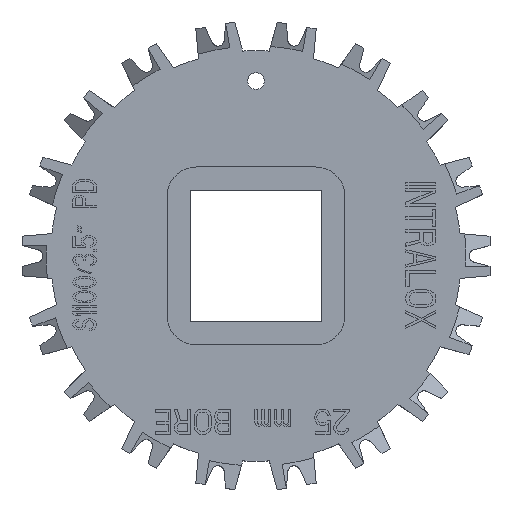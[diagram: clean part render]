
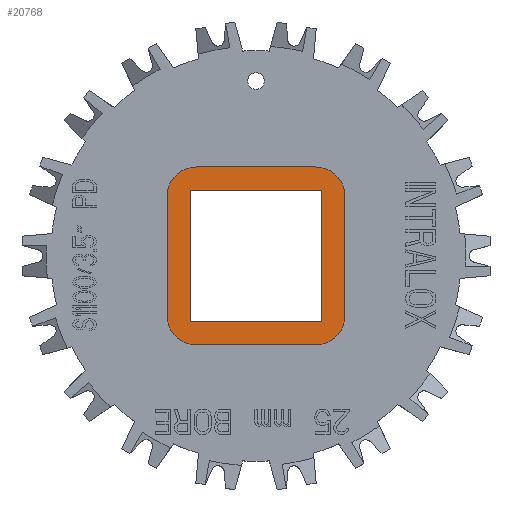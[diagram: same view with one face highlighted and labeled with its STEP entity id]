
A CAD part, top view. The second image highlights one B-rep face of the part: STEP entity #20768.
In plain terms, the highlighted planar face has unit normal (0, 0, 1).
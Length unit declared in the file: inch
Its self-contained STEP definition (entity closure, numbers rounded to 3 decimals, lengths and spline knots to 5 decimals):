
#6035=CARTESIAN_POINT('',(0.4475,0.4475,0.367));
#6036=DIRECTION('',(0.,0.,1.));
#6037=DIRECTION('',(1.,0.,0.));
#6038=AXIS2_PLACEMENT_3D('',#6035,#6036,#6037);
#6040=DIRECTION('',(0.,-1.,0.));
#6041=VECTOR('',#6040,0.895);
#6042=CARTESIAN_POINT('',(0.6675,0.4475,0.367));
#6043=LINE('',#6042,#6041);
#6044=CARTESIAN_POINT('',(0.4475,-0.4475,0.367));
#6045=DIRECTION('',(0.,0.,1.));
#6046=DIRECTION('',(0.,-1.,0.));
#6047=AXIS2_PLACEMENT_3D('',#6044,#6045,#6046);
#6049=DIRECTION('',(-1.,0.,0.));
#6050=VECTOR('',#6049,0.895);
#6051=CARTESIAN_POINT('',(0.4475,-0.6675,0.367));
#6052=LINE('',#6051,#6050);
#6053=CARTESIAN_POINT('',(-0.4475,-0.4475,0.367));
#6054=DIRECTION('',(0.,0.,1.));
#6055=DIRECTION('',(-1.,0.,0.));
#6056=AXIS2_PLACEMENT_3D('',#6053,#6054,#6055);
#6058=DIRECTION('',(0.,1.,0.));
#6059=VECTOR('',#6058,0.895);
#6060=CARTESIAN_POINT('',(-0.6675,-0.4475,0.367));
#6061=LINE('',#6060,#6059);
#6062=CARTESIAN_POINT('',(-0.4475,0.4475,0.367));
#6063=DIRECTION('',(0.,0.,1.));
#6064=DIRECTION('',(0.,1.,0.));
#6065=AXIS2_PLACEMENT_3D('',#6062,#6063,#6064);
#6067=DIRECTION('',(1.,0.,0.));
#6068=VECTOR('',#6067,0.895);
#6069=CARTESIAN_POINT('',(-0.4475,0.6675,0.367));
#6070=LINE('',#6069,#6068);
#6071=DIRECTION('',(0.,-1.,0.));
#6072=VECTOR('',#6071,0.984);
#6073=CARTESIAN_POINT('',(-0.492,0.492,0.367));
#6074=LINE('',#6073,#6072);
#6075=DIRECTION('',(1.,0.,0.));
#6076=VECTOR('',#6075,0.984);
#6077=CARTESIAN_POINT('',(-0.492,-0.492,0.367));
#6078=LINE('',#6077,#6076);
#6079=DIRECTION('',(0.,1.,0.));
#6080=VECTOR('',#6079,0.984);
#6081=CARTESIAN_POINT('',(0.492,-0.492,0.367));
#6082=LINE('',#6081,#6080);
#6083=DIRECTION('',(-1.,0.,0.));
#6084=VECTOR('',#6083,0.984);
#6085=CARTESIAN_POINT('',(0.492,0.492,0.367));
#6086=LINE('',#6085,#6084);
#11742=CARTESIAN_POINT('',(-0.492,0.492,0.367));
#11743=CARTESIAN_POINT('',(-0.492,-0.492,0.367));
#11744=VERTEX_POINT('',#11742);
#11745=VERTEX_POINT('',#11743);
#11746=CARTESIAN_POINT('',(0.492,-0.492,0.367));
#11747=VERTEX_POINT('',#11746);
#11748=CARTESIAN_POINT('',(0.492,0.492,0.367));
#11749=VERTEX_POINT('',#11748);
#13758=CARTESIAN_POINT('',(0.6675,0.4475,0.367));
#13759=CARTESIAN_POINT('',(0.4475,0.6675,0.367));
#13760=VERTEX_POINT('',#13758);
#13761=VERTEX_POINT('',#13759);
#13766=CARTESIAN_POINT('',(-0.4475,0.6675,0.367));
#13767=CARTESIAN_POINT('',(-0.6675,0.4475,0.367));
#13768=VERTEX_POINT('',#13766);
#13769=VERTEX_POINT('',#13767);
#13774=CARTESIAN_POINT('',(-0.6675,-0.4475,0.367));
#13775=CARTESIAN_POINT('',(-0.4475,-0.6675,0.367));
#13776=VERTEX_POINT('',#13774);
#13777=VERTEX_POINT('',#13775);
#13782=CARTESIAN_POINT('',(0.4475,-0.6675,0.367));
#13783=CARTESIAN_POINT('',(0.6675,-0.4475,0.367));
#13784=VERTEX_POINT('',#13782);
#13785=VERTEX_POINT('',#13783);
#20737=CARTESIAN_POINT('',(0.,0.,0.367));
#20738=DIRECTION('',(0.,0.,1.));
#20739=DIRECTION('',(1.,0.,0.));
#20740=AXIS2_PLACEMENT_3D('',#20737,#20738,#20739);
#20741=PLANE('',#20740);
#20742=ORIENTED_EDGE('',*,*,#20728,.F.);
#20744=ORIENTED_EDGE('',*,*,#20743,.T.);
#20746=ORIENTED_EDGE('',*,*,#20745,.F.);
#20748=ORIENTED_EDGE('',*,*,#20747,.T.);
#20750=ORIENTED_EDGE('',*,*,#20749,.F.);
#20752=ORIENTED_EDGE('',*,*,#20751,.T.);
#20754=ORIENTED_EDGE('',*,*,#20753,.F.);
#20755=ORIENTED_EDGE('',*,*,#20715,.T.);
#20756=EDGE_LOOP('',(#20742,#20744,#20746,#20748,#20750,#20752,#20754,#20755));
#20757=FACE_OUTER_BOUND('',#20756,.F.);
#20759=ORIENTED_EDGE('',*,*,#20758,.T.);
#20761=ORIENTED_EDGE('',*,*,#20760,.T.);
#20763=ORIENTED_EDGE('',*,*,#20762,.T.);
#20765=ORIENTED_EDGE('',*,*,#20764,.T.);
#20766=EDGE_LOOP('',(#20759,#20761,#20763,#20765));
#20767=FACE_BOUND('',#20766,.F.);
#20768=ADVANCED_FACE('',(#20757,#20767),#20741,.T.);
#6039=CIRCLE('',#6038,0.22);
#6048=CIRCLE('',#6047,0.22);
#6057=CIRCLE('',#6056,0.22);
#6066=CIRCLE('',#6065,0.22);
#20715=EDGE_CURVE('',#13768,#13761,#6070,.T.);
#20728=EDGE_CURVE('',#13760,#13761,#6039,.T.);
#20743=EDGE_CURVE('',#13760,#13785,#6043,.T.);
#20745=EDGE_CURVE('',#13784,#13785,#6048,.T.);
#20747=EDGE_CURVE('',#13784,#13777,#6052,.T.);
#20749=EDGE_CURVE('',#13776,#13777,#6057,.T.);
#20751=EDGE_CURVE('',#13776,#13769,#6061,.T.);
#20753=EDGE_CURVE('',#13768,#13769,#6066,.T.);
#20758=EDGE_CURVE('',#11744,#11745,#6074,.T.);
#20760=EDGE_CURVE('',#11745,#11747,#6078,.T.);
#20762=EDGE_CURVE('',#11747,#11749,#6082,.T.);
#20764=EDGE_CURVE('',#11749,#11744,#6086,.T.);
